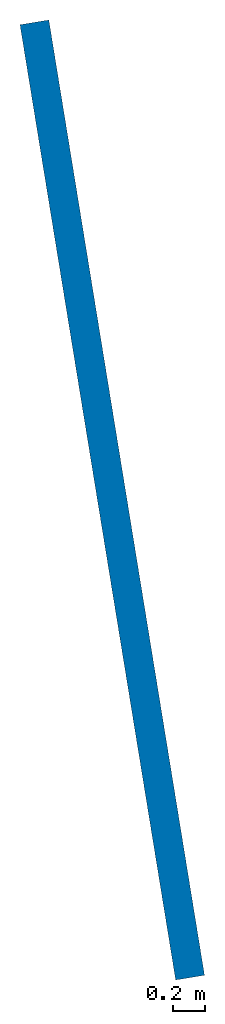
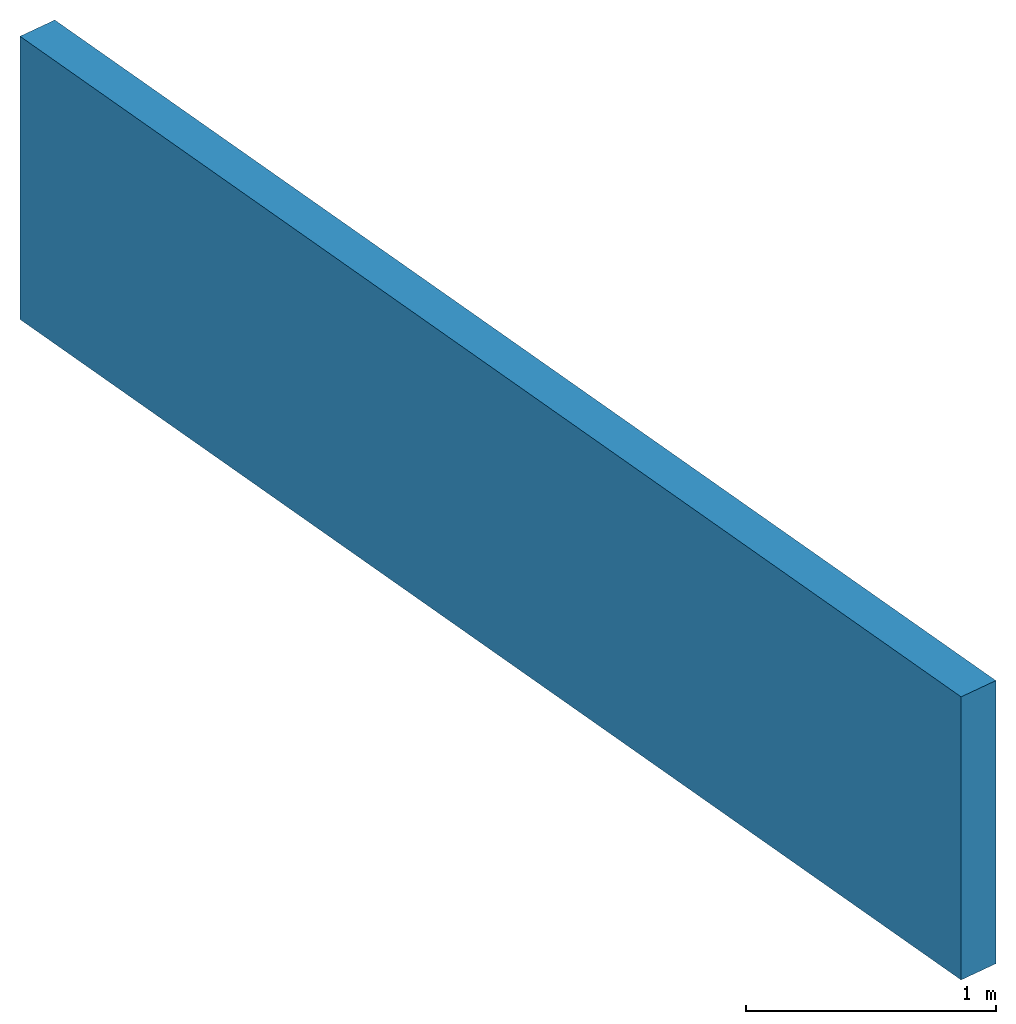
# One storey: 1 wall.
"""IFC2X3 building model written with IfcOpenShell, lengths in millimetres."""

from ifc_helpers import new_model, entity, si_unit, converted_unit, derived_unit, direction, frame, frame_2d, origin, origin_with_axes, place, context, subcontext, project, spatial, rectangle, extrude, material, type_object, element, save


model = new_model("IFC2X3")

# Units and contexts
plan_context = context("Plan", 3, precision=1e-05, world=origin_with_axes())
model_context = context("Model", 3, precision=0.01, world=origin(), true_north=direction((6.12323399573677e-17, 1.0)))
body_context = subcontext(model_context, "Body", "Model", "MODEL_VIEW")
ifc_project = project(units=[converted_unit("PLANEANGLEUNIT", "DEGREE", entity("IfcPositiveLengthMeasure", 0.0174532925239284), si_unit("PLANEANGLEUNIT", "RADIAN"), dimensions=[0, 0, 0, 0, 0, 0, 0]), si_unit("AREAUNIT", "SQUARE_METRE"), si_unit("LENGTHUNIT", "METRE", prefix="MILLI"), si_unit("MASSUNIT", "GRAM", prefix="KILO"), si_unit("POWERUNIT", "WATT"), si_unit("PRESSUREUNIT", "PASCAL", prefix="KILO"), si_unit("FORCEUNIT", "NEWTON", prefix="KILO"), si_unit("ELECTRICVOLTAGEUNIT", "VOLT"), si_unit("ELECTRICCURRENTUNIT", "AMPERE"), si_unit("THERMODYNAMICTEMPERATUREUNIT", "DEGREE_CELSIUS"), si_unit("TIMEUNIT", "SECOND"), si_unit("VOLUMEUNIT", "CUBIC_METRE"), derived_unit("LINEARVELOCITYUNIT", [(si_unit("LENGTHUNIT", "METRE"), 1), (si_unit("TIMEUNIT", "SECOND"), -1)]), derived_unit("VOLUMETRICFLOWRATEUNIT", [(si_unit("VOLUMEUNIT", "CUBIC_METRE"), 1), (si_unit("TIMEUNIT", "SECOND"), -1)]), derived_unit("THERMALTRANSMITTANCEUNIT", [(si_unit("POWERUNIT", "WATT"), 1), (si_unit("THERMODYNAMICTEMPERATUREUNIT", "KELVIN"), -1), (si_unit("AREAUNIT", "SQUARE_METRE"), -1)]), derived_unit("SOUNDPRESSUREUNIT", [(si_unit("PRESSUREUNIT", "PASCAL"), 1)])], contexts=[model_context, plan_context])

# Site, building, storey
site_placement = place(None, frame((5.09380697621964e-08, 5.80416781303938e-08, 0.0), z_axis=(0.0, 0.0, 1.0), x_axis=(-0.160806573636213, 0.986985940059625, 0.0)))
site = spatial("IfcSite", under=ifc_project, at=site_placement, Name="Default", CompositionType="ELEMENT")
building_placement = place(site_placement, frame((0.0, 0.0, 0.0), z_axis=(0.0, 0.0, 1.0), x_axis=(1.0, -2.77555756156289e-17, 0.0)))
building = spatial("IfcBuilding", under=site, at=building_placement, CompositionType="ELEMENT")
storey_placement = place(building_placement, frame((0.0, 0.0, 51360.0000000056), z_axis=(0.0, 0.0, 1.0), x_axis=(1.0, -2.77555756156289e-17, 0.0)))
storey = spatial("IfcBuildingStorey", under=building, at=storey_placement, Name="H01-Nivå D+0,36", CompositionType="ELEMENT", Elevation=51360.0000000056)

# Wall
ifc_material = material(Name="CONCRETE/C35/45 55428")
wall_type = type_object("IfcWallType", Name="1385*180", PredefinedType="NOTDEFINED", material=ifc_material)
wall_placement = place(storey_placement, frame((972298.474185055, -371960.418303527, 2104.99999999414), z_axis=(0.0, 0.0, 1.0), x_axis=(1.0, -2.77555756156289e-17, 0.0)))
element("IfcWall", 1, at=wall_placement, inside=storey, type_object=wall_type, material=ifc_material, Name="PLASSTØPTVEGG", ObjectType="1385*180", context=body_context, shape_type="SweptSolid", body=[
    extrude(rectangle(XDim=180.00000000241, YDim=5959.999368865, at=frame_2d((6.93063384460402e-11, -6.91215973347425e-11), x_axis=(1.0, 0.0))), frame((2980.00008216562, 90.0131702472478, 0.0), z_axis=(0.0, 0.0, 1.0), x_axis=(4.41958021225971e-06, -1.0, 0.0)), (0.0, 0.0, 1.0), 1385.0),
])

save(model, "model.ifc")
